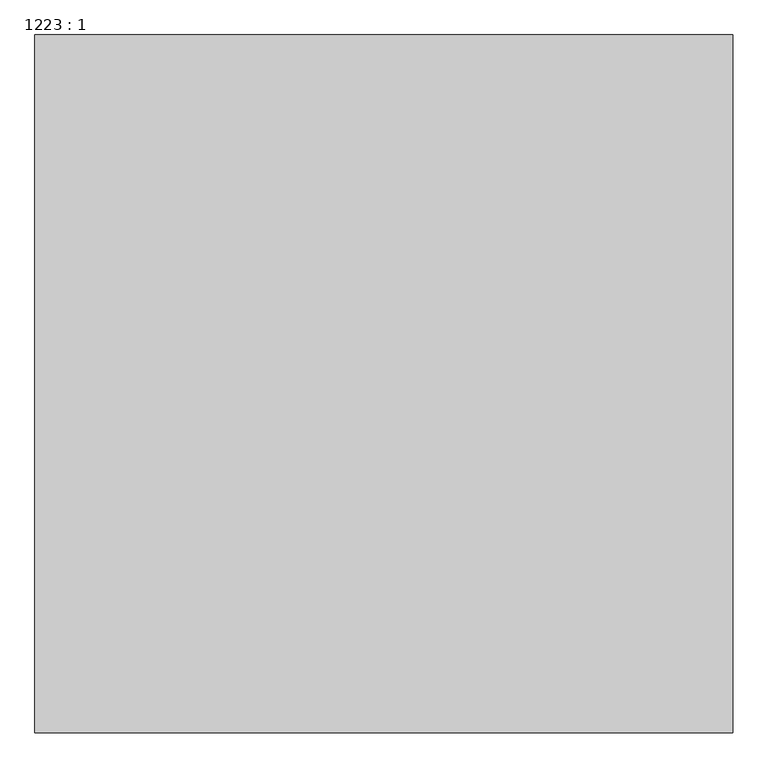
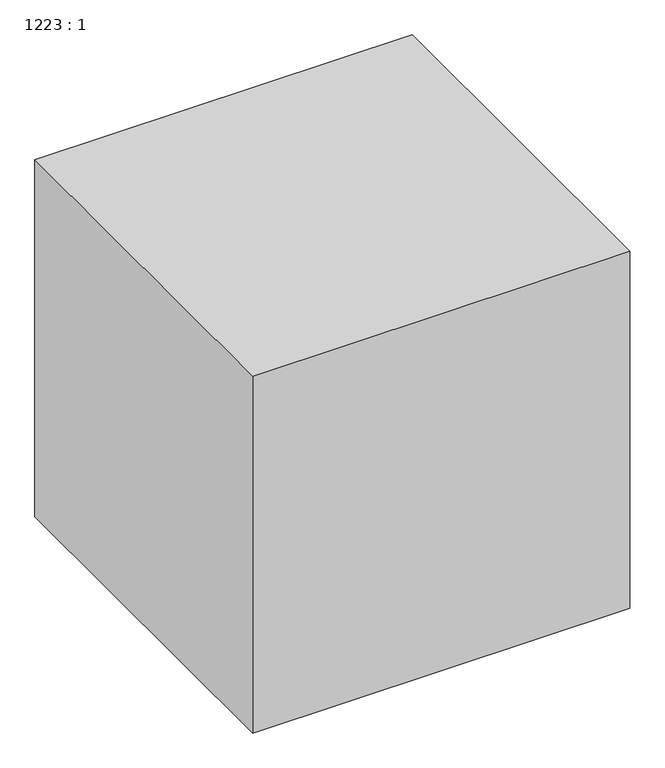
"""IFC4 building model written with IfcOpenShell, lengths in millimetres: proxy geometry, 1223 : 1."""

from ifc_helpers import new_model, si_unit, origin, origin_with_axes, place, context, project, spatial, polyline, outline, extrude, source, transform, mapped, element, save


def proxy_1223_1_8651d323(model_context):
    return source(origin(), model_context, "Body", "SweptSolid", [
        extrude(outline(polyline([(-20307.9756708, 7335.2294472), (-20307.9756708, 6335.2294472), (-21307.9756708, 6335.2294472), (-21307.9756708, 7335.2294472), (-20307.9756708, 7335.2294472)])), origin_with_axes(), (0.0, 0.0, 1.0), 1000.0),
    ])


if __name__ == "__main__":
    model = new_model("IFC4")
    model_context = context("Model", 3, world=origin())
    ifc_project = project(units=[si_unit("LENGTHUNIT", "METRE", prefix="MILLI")], contexts=[model_context])
    site = spatial("IfcSite", under=ifc_project)
    building = spatial("IfcBuilding", under=site)
    placement = place(None, origin())
    proxy_1223_1_shape = proxy_1223_1_8651d323(model_context)
    element("IfcBuildingElementProxy", 1, Name="1223 : 1", ObjectType="1223 : 1", at=placement, inside=building, context=model_context, shape_type="MappedRepresentation", body=[
        mapped(proxy_1223_1_shape, transform((0.0, 0.0, 0.0), x_axis=(1.0, 0.0, 0.0), y_axis=(0.0, 1.0, 0.0), z_axis=(0.0, 0.0, 1.0))),
    ])
    save(model, "model.ifc")
